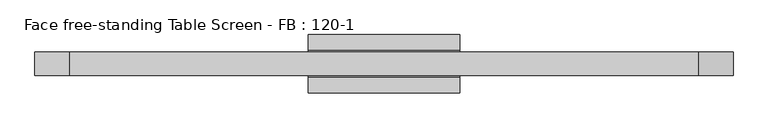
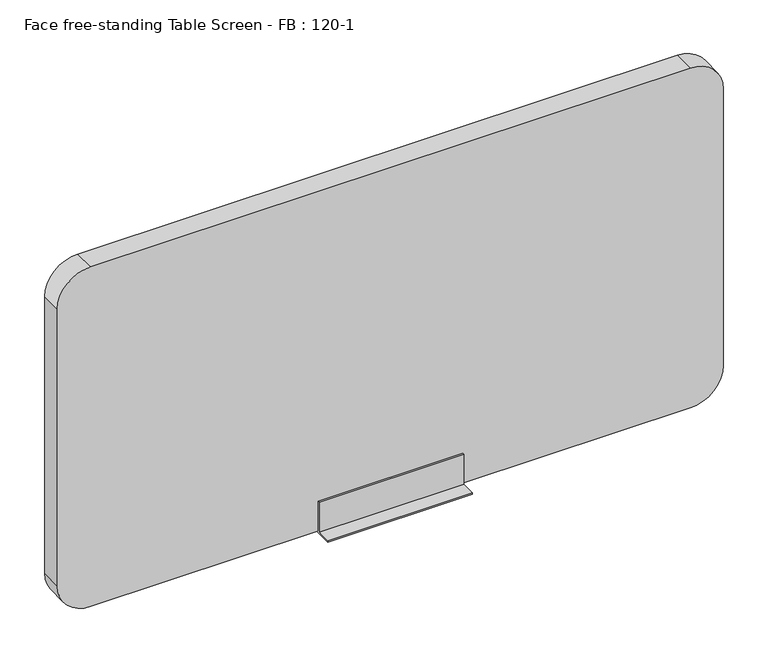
"""IFC4 building model written with IfcOpenShell, lengths in millimetres: furniture geometry, Face free-standing Table Screen - FB : 120-1."""

from ifc_helpers import new_model, si_unit, point, frame, frame_2d, origin, place, context, project, spatial, polyline, circle_curve, trimmed, segment, composite_curve, outline, extrude, source, transform, mapped, element, save


def face_free_standing_table_screen_fb_120_1_8b9ce8e5(model_context):
    return source(origin(), model_context, "Body", "SweptSolid", [
        extrude(outline(polyline([(-50.0, 3.0), (-22.999995, 3.0), (-23.0, 60.0), (-20.0, 60.0), (-20.0, 3.0), (20.0, 3.0), (20.0, 60.0), (23.0, 60.0), (22.999995, 3.0), (50.0, 3.0), (50.0, 0.0), (-50.0, 0.0), (-50.0, 3.0)])), frame((-130.0, 0.0, 0.0), z_axis=(1.0, 0.0, 0.0), x_axis=(0.0, 1.0, 0.0)), (0.0, 0.0, 1.0), 260.0),
        extrude(outline(composite_curve([segment(polyline([(650.0, 540.0), (650.0, -540.0)]), True, "CONTINUOUS"), segment(trimmed(circle_curve(frame_2d((590.0, -540.0)), 60.0), [point((650.0, -540.0))], [point((590.0, -600.0))], False, "CARTESIAN"), True, "CONTINUOUS"), segment(polyline([(590.0, -600.0), (63.0, -600.0)]), True, "CONTINUOUS"), segment(trimmed(circle_curve(frame_2d((63.0, -540.0)), 60.0), [point((63.0, -600.0))], [point((3.0, -540.0))], False, "CARTESIAN"), True, "CONTINUOUS"), segment(polyline([(3.0, -540.0), (3.0, 540.0)]), True, "CONTINUOUS"), segment(trimmed(circle_curve(frame_2d((63.0, 540.0)), 60.0), [point((3.0, 540.0))], [point((63.0, 600.0))], False, "CARTESIAN"), True, "CONTINUOUS"), segment(polyline([(63.0, 600.0), (590.0, 600.0)]), True, "CONTINUOUS"), segment(trimmed(circle_curve(frame_2d((590.0, 540.0)), 60.0), [point((590.0, 600.0))], [point((650.0, 540.0))], False, "CARTESIAN"), True, "CONTINUOUS")], self_intersect=False)), frame((0.0, -20.0, 0.0), z_axis=(0.0, 1.0, 0.0), x_axis=(0.0, 0.0, 1.0)), (0.0, 0.0, 1.0), 40.0),
    ])


if __name__ == "__main__":
    model = new_model("IFC4")
    model_context = context("Model", 3, world=origin())
    ifc_project = project(units=[si_unit("LENGTHUNIT", "METRE", prefix="MILLI")], contexts=[model_context])
    site = spatial("IfcSite", under=ifc_project)
    building = spatial("IfcBuilding", under=site)
    placement = place(None, origin())
    face_free_standing_table_screen_fb_120_1_shape = face_free_standing_table_screen_fb_120_1_8b9ce8e5(model_context)
    element("IfcFurniture", 1, ObjectType="Face free-standing Table Screen - FB : 120-1", at=placement, inside=building, context=model_context, shape_type="MappedRepresentation", body=[
        mapped(face_free_standing_table_screen_fb_120_1_shape, transform((0.0, 0.0, 0.0), x_axis=(1.0, 0.0, 0.0), y_axis=(0.0, 1.0, 0.0), z_axis=(0.0, 0.0, 1.0))),
    ])
    save(model, "model.ifc")
